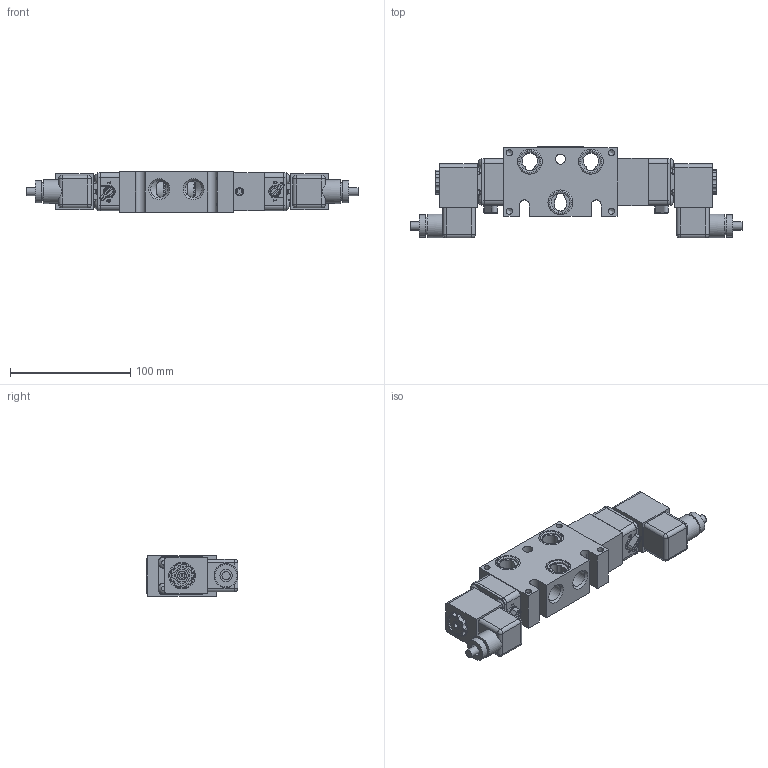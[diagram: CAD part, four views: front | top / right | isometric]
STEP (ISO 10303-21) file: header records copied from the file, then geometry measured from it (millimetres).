
FILE_DESCRIPTION(/* description */ (''),/* implementation_level */ '2;1');
FILE_NAME(/* name */ 'EBSS3TOQZ.stp',/* time_stamp */ '2026-09-30T10:04:33-04:00',/* author */ ('rmckenna'),/* organization */ (''),/* preprocessor_version */ 'ST-DEVELOPER v20.2',/* originating_system */ 'Autodesk Inventor 2027',/* authorisation */ '');
FILE_SCHEMA (('AUTOMOTIVE_DESIGN { 1 0 10303 214 3 1 1 }'));
Products named in the file (1): Part118
Bounding box: 276.07 x 76.4 x 33.32 mm (x, y, z)
Volume: 311808.4 mm3; surface area: 108833.8 mm2
Topology: 3 solids, 44 shells, 2003 faces, 4760 edges, 3012 vertices
Faces by surface type: plane 867, cylinder 644, cone 257, torus 147, bspline 70, sphere 18
Full cylindrical faces by diameter (mm): 1.3 x2, 1.397 x2, 1.5 x4, 2.032 x16, 2.07 x2, 2.261 x2, 2.35 x8, 2.5 x2, 2.778 x2, 2.8 x2, 3 x8, 3.048 x3, 3.175 x1, 3.353 x1, 3.4 x2, 3.683 x10, 4.191 x4, 4.305 x2, 4.826 x8, 4.978 x1, 5.15 x8, 5.156 x16, 5.159 x4, 5.5 x2, 5.944 x1, 6.65 x2, 6.731 x2, 6.9 x2, 7.188 x2, 7.75 x2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
Entity records: 63764 total; most frequent: CARTESIAN_POINT 14653, DIRECTION 10152, ORIENTED_EDGE 9470, EDGE_CURVE 4735, AXIS2_PLACEMENT_3D 3941, VERTEX_POINT 3012, EDGE_LOOP 2279, LINE 2270
